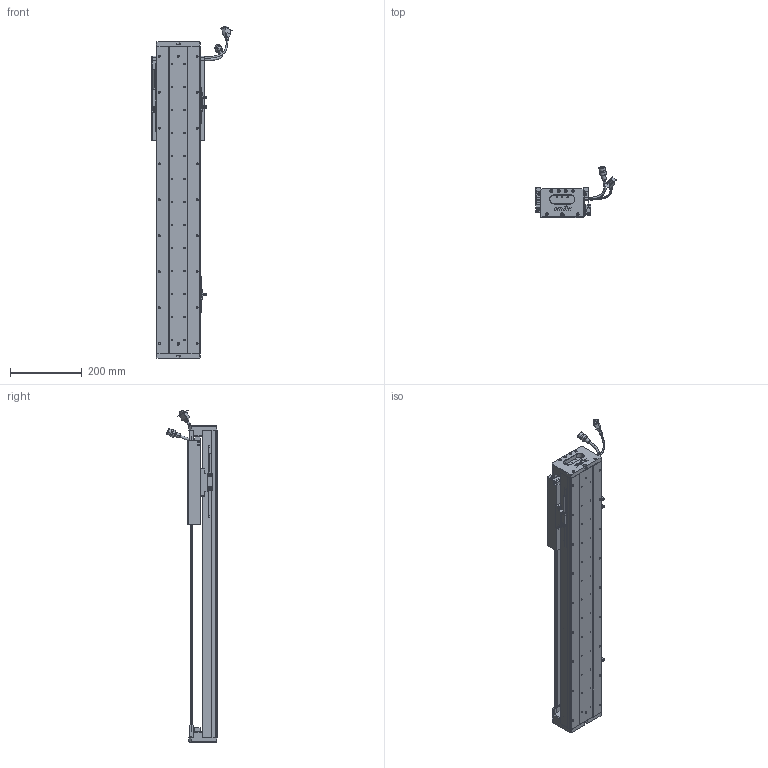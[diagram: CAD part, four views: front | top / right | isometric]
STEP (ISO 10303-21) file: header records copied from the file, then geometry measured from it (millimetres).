
FILE_DESCRIPTION (( 'STEP AP203' ), '1' );
FILE_NAME ('Z3-RY120D-1-L500-B-K.SLDASM_0550.step', '2021-05-17T05:46:07', ( '盈信电脑' ), ( '东莞市道滘镇水果街19号' ), 'SwSTEP 2.0', 'SolidWorks 2016', '' );
FILE_SCHEMA (( 'CONFIG_CONTROL_DESIGN' ));
Length unit declared in the file: millimetre
Products named in the file (37): SCREW-M1.6-1; SEAL; COVER-Part-1; SCREW-M1.6-3; Z-RY120D詩湍奻揤裔; HARNESS; HARNESS-Part-1; Z-RY120D詩湍狟揤裔; Z3-RY120-500-倰第菁釱_0550; SCALE-Part-2; 080黍杅芛假蚾釱21遴; Z3-RY120D-1-L500-B-K.SLDASM_0550; 榋妏寠巭燃_暯_M2_2; SEAL-Part-1; PSLH080_PSLF2; HOLDER0; Z3-RY120铝滑块（21款）; Z3-RY120-L500詩湍100mm遵_0550; PBU_SHEET; SCREW-M1.7; SCALE; SHIELDPLATE; SCREW-M1.7-1; SCREW-M1.6-2; HARNESS-Part-2; Z-120詩湍傷裔啣; COVER; 120-Z-臏賑輸盄裔(21遴); SCREW-M1.6; SCALE-Part-1; RY100FB-遵嫖萇覜茼え; 覜茼ん672; LABEL-Part-1; 672嫖萇羲壽假蚾釱; 140蚥薯蝶輸; LABEL; 140雄赽晤鎢ん堤盄
Assembly tree (43 placements, depth 4):
  Z3-RY120D-1-L500-B-K.SLDASM_0550
    Z3-RY120-500-倰第菁釱_0550
    覜茼ん672  x3
    672嫖萇羲壽假蚾釱  x2
    Z3-RY120铝滑块（21款）
    PSLH080_PSLF2
      SCALE
        SCALE-Part-1
        SCALE-Part-2
      HARNESS
        HARNESS-Part-1
        HARNESS-Part-2
      LABEL
        LABEL-Part-1
      COVER
        COVER-Part-1
      SEAL
        SEAL-Part-1
      榋妏寠巭燃_暯_M2_2
      SHIELDPLATE
      SCREW-M1.7
      SCREW-M1.7-1
      PBU_SHEET
      SCREW-M1.6
      SCREW-M1.6-1
      SCREW-M1.6-2
      SCREW-M1.6-3
      HOLDER0
    080黍杅芛假蚾釱21遴
    120-Z-臏賑輸盄裔(21遴)
    140雄赽晤鎢ん堤盄
    140蚥薯蝶輸  x2
    RY100FB-遵嫖萇覜茼え
    Z-120詩湍傷裔啣  x2
    Z-RY120D詩湍奻揤裔  x2
    Z-RY120D詩湍狟揤裔  x2
    Z3-RY120-L500詩湍100mm遵_0550
Bounding box: 222.88 x 140.94 x 924 mm (x, y, z)
Volume: 2762916.6 mm3; surface area: 905763.8 mm2
Topology: 38 solids, 38 shells, 2741 faces, 7363 edges, 4650 vertices
Faces by surface type: cylinder 1237, plane 1112, cone 270, torus 69, bspline 53
Entity records: 81362 total; most frequent: CARTESIAN_POINT 21363, ORIENTED_EDGE 11710, DIRECTION 11595, EDGE_CURVE 5855, AXIS2_PLACEMENT_3D 4236, VERTEX_POINT 3770, VECTOR 3123, LINE 3123
